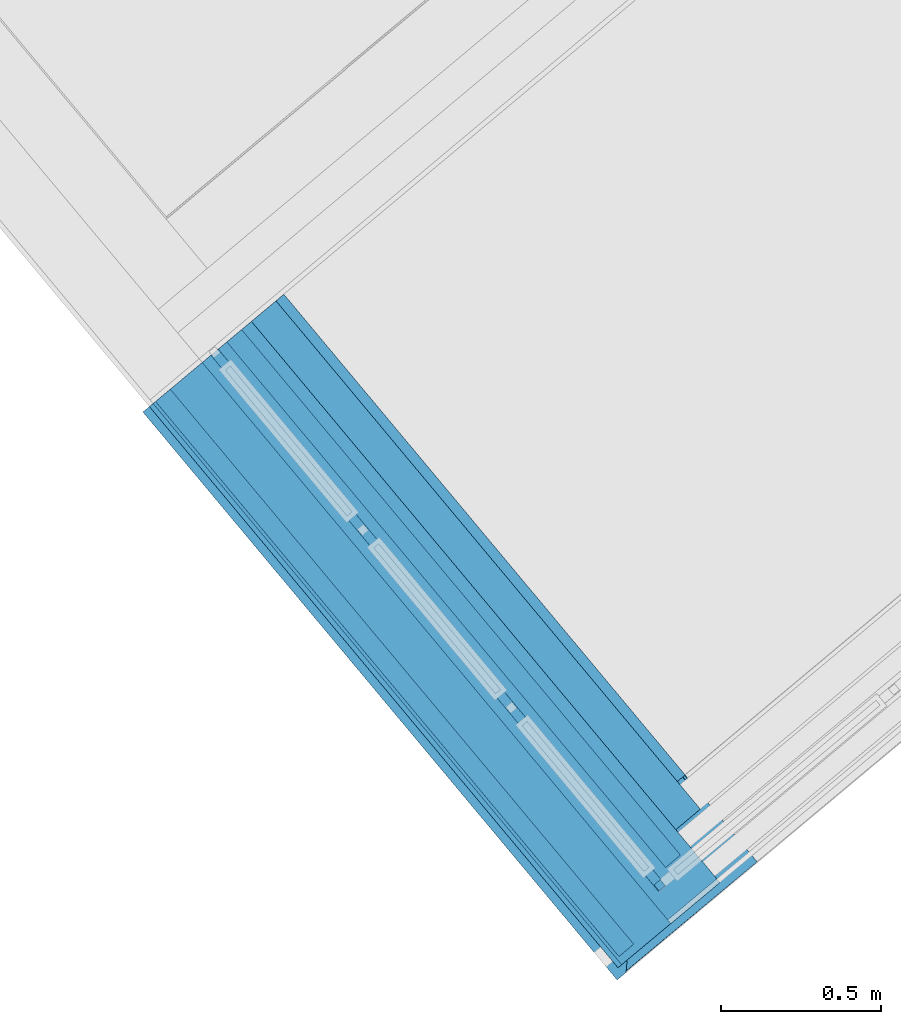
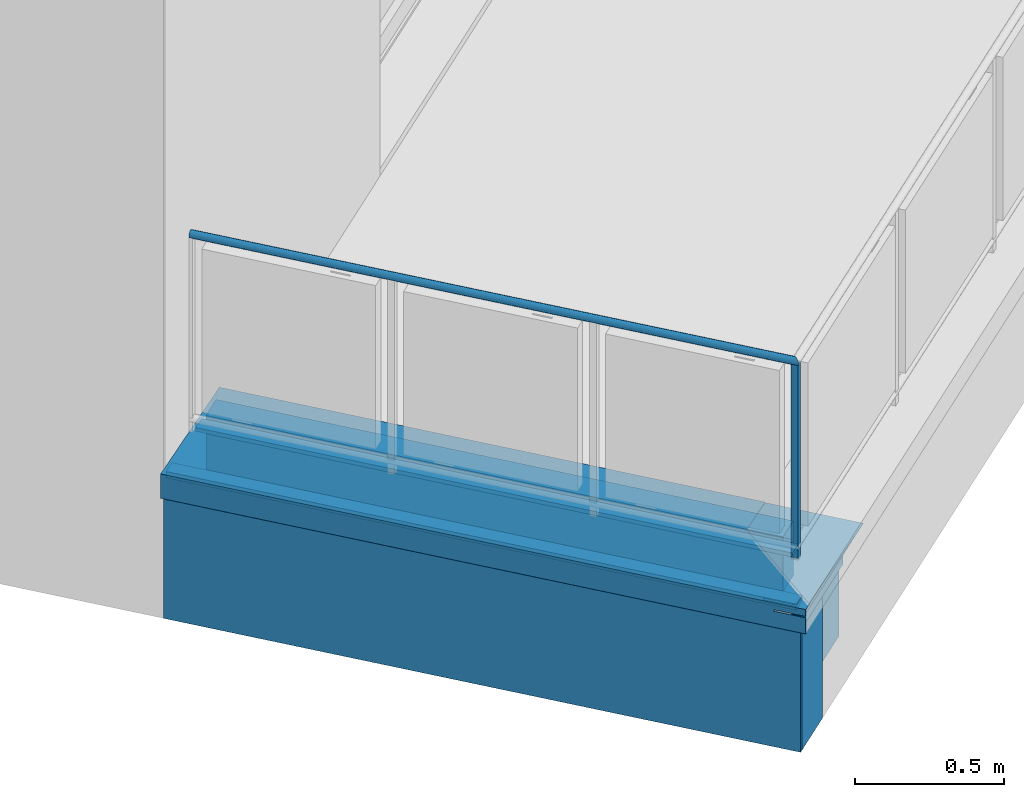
# One storey, part 13 of 50: 11 building element parts, 2 elements without a shape of their own.
"""IFC4 building model written with IfcOpenShell, lengths in metres."""

from ifc_helpers import new_model, entity, si_unit, converted_unit, derived_unit, direction, frame, origin_with_axes, place, context, subcontext, project, spatial, polygons, material, type_object, element, aggregate, save


model = new_model("IFC4")

# Units and contexts
model_context = context("Model", 3, precision=1e-05, world=origin_with_axes(), true_north=direction((0.0, 1.0)))
body_context = subcontext(model_context, "Body", "Model", "MODEL_VIEW")
ifc_project = project(units=[si_unit("LENGTHUNIT", "METRE"), si_unit("AREAUNIT", "SQUARE_METRE"), si_unit("VOLUMEUNIT", "CUBIC_METRE"), converted_unit("PLANEANGLEUNIT", "DEGREE", entity("IfcPlaneAngleMeasure", 0.0174532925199), si_unit("PLANEANGLEUNIT", "RADIAN"), dimensions=[0, 0, 0, 0, 0, 0, 0]), converted_unit("TIMEUNIT", "Year", entity("IfcTimeMeasure", 31556926.0), si_unit("TIMEUNIT", "SECOND"), dimensions=[0, 0, 1, 0, 0, 0, 0]), si_unit("MASSUNIT", "GRAM", prefix="KILO"), si_unit("THERMODYNAMICTEMPERATUREUNIT", "DEGREE_CELSIUS"), si_unit("LUMINOUSINTENSITYUNIT", "LUMEN"), si_unit("ENERGYUNIT", "JOULE", prefix="MEGA"), derived_unit("THERMALCONDUCTANCEUNIT", [(si_unit("POWERUNIT", "WATT"), 1), (si_unit("LENGTHUNIT", "METRE"), -1), (si_unit("THERMODYNAMICTEMPERATUREUNIT", "KELVIN"), -1)]), derived_unit("SPECIFICHEATCAPACITYUNIT", [(si_unit("ENERGYUNIT", "JOULE"), 1), (si_unit("MASSUNIT", "GRAM", prefix="KILO"), -1), (si_unit("THERMODYNAMICTEMPERATUREUNIT", "KELVIN"), -1)]), derived_unit("MASSDENSITYUNIT", [(si_unit("MASSUNIT", "GRAM", prefix="KILO"), 1), (si_unit("VOLUMEUNIT", "CUBIC_METRE"), -1)])], contexts=[model_context])

# Site, building, storey
site_placement = place(None, frame((-0.00153261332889, -0.00661245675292, 0.0), z_axis=(0.0, 0.0, 1.0), x_axis=(1.0, 0.0, 0.0)))
site = spatial("IfcSite", under=ifc_project, at=site_placement, Name="Site", CompositionType="ELEMENT")
building_placement = place(site_placement, origin_with_axes())
building = spatial("IfcBuilding", under=site, at=building_placement, Name="Building", CompositionType="ELEMENT")
storey_placement = place(building_placement, frame((0.0, 0.0, 2.74), z_axis=(0.0, 0.0, 1.0), x_axis=(1.0, 0.0, 0.0)))
storey = spatial("IfcBuildingStorey", under=building, at=storey_placement, Name="OG1", CompositionType="ELEMENT", Elevation=2.74)

# Wall, building element parts
wall_type = type_object("IfcWallType", Name="Balkon Dämmung runter 574 x 610", PredefinedType="NOTDEFINED")
wall_placement = place(storey_placement, frame((-0.869246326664, 8.34153645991, -0.2), z_axis=(0.0, 0.0, 1.0), x_axis=(0.640952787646, -0.7675803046, 0.0)))
wall = element("IfcWall", 1, at=wall_placement, inside=storey, type_object=wall_type, Name="Wand-004", PredefinedType="NOTDEFINED")
ifc_material_1 = material(Name="Stahl")
building_element_part_1_placement = place(wall_placement, origin_with_axes())
building_element_part_1 = element("IfcBuildingElementPart", 2, at=building_element_part_1_placement, material=ifc_material_1, Name="Stahl", PredefinedType="NOTDEFINED", context=body_context, shape_type="Tessellation", body=[
    polygons([(2.31050672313, -0.241452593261, 0.608602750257), (2.3105274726, -0.241471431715, 0.581921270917), (2.31052209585, -0.24015106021, 0.581921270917), (2.31050652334, -0.240152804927, 0.608602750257), (2.31050872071, -0.24148595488, 0.575979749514), (2.30921429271, -0.241485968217, 0.575979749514), (2.25789575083, -0.241486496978, 0.575979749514), (2.19798147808, -0.241487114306, 0.575979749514), (2.19798147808, -0.241487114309, 0.57982217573), (2.19798147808, -0.24148711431, 0.581921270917), (2.25786387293, -0.241486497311, 0.581921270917), (2.30921468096, -0.241485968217, 0.581921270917), (2.31050328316, -0.24148595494, 0.581921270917), (2.30921643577, -0.241500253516, 0.608602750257), (2.30795035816, -0.241500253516, 0.608602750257), (2.30921643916, -0.241500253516, 0.608652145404), (2.31050672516, -0.241452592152, 0.608652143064), (2.31056389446, -0.241500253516, 0.610006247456), (0.0, -0.241500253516, 0.610006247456), (0.0, -0.241500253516, 0.510007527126), (2.31050570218, -0.241500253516, 0.510007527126), (2.31055711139, -0.241500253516, 0.510056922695), (2.31052888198, -0.241472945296, 0.575979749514), (2.30921407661, -0.240151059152, 0.581921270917), (2.30794974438, -0.240152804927, 0.608602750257), (2.30921582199, -0.240152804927, 0.608602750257), (2.25786326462, -0.240151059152, 0.581921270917), (2.19798086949, -0.240151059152, 0.581921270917), (2.19798086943, -0.240150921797, 0.57982217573), (2.19798086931, -0.240150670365, 0.575979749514), (2.25789514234, -0.240150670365, 0.575979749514), (2.30921368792, -0.240150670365, 0.575979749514), (2.31052556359, -0.240150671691, 0.575979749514), (2.31056327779, -0.240146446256, 0.51136132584), (0.0, -0.240146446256, 0.51136132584), (0.0, -0.240152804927, 0.608602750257), (2.30793269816, -0.202730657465, 0.608602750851), (2.3091994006, -0.204095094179, 0.60865214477), (2.31050098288, -0.204095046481, 0.608652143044), (0.0, 0.332051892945, 0.589243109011), (2.30711494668, -0.201849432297, 0.608570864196), (1.95543117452, 0.149654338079, 0.5958462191), (1.95534808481, 0.332051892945, 0.589243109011), (0.0, -0.240542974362, 0.509050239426), (0.0, 0.332051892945, 0.489652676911), (0.0, 0.331094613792, 0.488695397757), (0.0, 0.321878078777, 0.497911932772), (0.0, 0.32288233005, 0.498822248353), (0.0, 0.330698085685, 0.491006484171), (0.0, 0.330698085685, 0.587937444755), (0.0, -0.239276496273, 0.608570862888), (0.0, -0.232283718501, 0.519224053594), (0.0, -0.231373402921, 0.518219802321), (2.28285606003, -0.240542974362, 0.509050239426), (2.28285608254, -0.240592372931, 0.509099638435), (2.30960619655, -0.240592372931, 0.509099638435), (2.30960615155, -0.240493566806, 0.509099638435), (2.31055623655, -0.239536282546, 0.510056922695), (2.31056238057, -0.238182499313, 0.511410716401), (2.31056325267, -0.240097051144, 0.511410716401), (2.31054704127, -0.240083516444, 0.511410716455), (2.30920944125, -0.240097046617, 0.511410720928), (2.30139254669, -0.23228372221, 0.519224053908), (2.30713199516, -0.239276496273, 0.608570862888), (1.955448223, 0.11222723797, 0.5958462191), (1.9553487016, 0.330698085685, 0.587937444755), (1.95534808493, 0.332051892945, 0.587937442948), (1.9553480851, 0.332051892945, 0.586106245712), (1.9553480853, 0.332051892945, 0.584015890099), (1.95534808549, 0.332051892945, 0.581921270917), (1.95534808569, 0.332051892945, 0.579822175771), (1.95534808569, 0.332051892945, 0.575979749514), (1.95534808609, 0.332051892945, 0.575576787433), (1.95534808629, 0.332051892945, 0.573880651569), (1.95534808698, 0.332051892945, 0.567947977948), (1.95534808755, 0.332051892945, 0.560000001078), (1.95534809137, 0.332051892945, 0.519273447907), (1.95534809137, 0.332051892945, 0.519224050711), (1.95534809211, 0.332051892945, 0.511410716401), (1.95534809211, 0.332051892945, 0.51136132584), (1.95534809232, 0.332051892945, 0.509099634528), (1.95534809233, 0.332051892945, 0.509050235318), (1.95534809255, 0.332051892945, 0.506731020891), (1.95534809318, 0.332051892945, 0.499999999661), (1.95534809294, 0.332051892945, 0.498915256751), (1.95726264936, 0.332051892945, 0.498915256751), (1.95716963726, 0.332051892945, 0.498822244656), (1.95495156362, 0.332051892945, 0.496604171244), (1.96759522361, 0.332051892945, 0.496604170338), (1.96759522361, 0.332051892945, 0.491006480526), (1.96759522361, 0.332051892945, 0.489652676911), (1.96759565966, 0.331094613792, 0.488695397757), (1.96759671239, 0.328783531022, 0.491006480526), (1.9675992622, 0.323185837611, 0.496604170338), (1.9675998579, 0.32187807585, 0.497911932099), (1.96759940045, 0.322882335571, 0.498822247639), (1.96759839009, 0.325100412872, 0.496604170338), (1.96759584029, 0.330698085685, 0.491006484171), (1.96759584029, 0.330698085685, 0.496604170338), (1.95495218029, 0.330698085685, 0.496604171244), (1.95717025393, 0.330698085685, 0.498822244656), (1.95726326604, 0.330698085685, 0.498915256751), (1.95534870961, 0.330698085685, 0.498915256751), (1.95534870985, 0.330698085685, 0.499999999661), (1.95534870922, 0.330698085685, 0.506731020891), (1.955348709, 0.330698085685, 0.509050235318), (1.955348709, 0.330698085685, 0.509099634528), (1.95534870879, 0.330698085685, 0.51136132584), (1.95534870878, 0.330698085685, 0.511410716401), (1.95534870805, 0.330698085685, 0.519224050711), (1.95534870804, 0.330698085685, 0.519273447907), (1.95534870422, 0.330698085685, 0.560000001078), (1.95534870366, 0.330698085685, 0.567947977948), (1.95534870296, 0.330698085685, 0.573880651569), (1.95534870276, 0.330698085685, 0.575576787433), (1.95534870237, 0.330698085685, 0.575979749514), (1.95534870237, 0.330698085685, 0.579822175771), (1.95534870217, 0.330698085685, 0.581921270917), (1.95534870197, 0.330698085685, 0.584015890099), (1.95534870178, 0.330698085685, 0.586106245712), (2.30239638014, -0.23137340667, 0.518219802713), (2.30920856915, -0.238182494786, 0.511410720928), (2.28285603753, -0.240493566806, 0.509099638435)], [[[1, 2, 3, 4]], [[5, 6, 7, 8, 9, 10, 11, 12, 13, 2, 1, 14, 15, 16, 17, 18, 19, 20, 21, 22, 23]], [[13, 12, 24, 3, 2]], [[25, 26, 4, 3, 24, 27, 28, 29, 30, 31, 32, 33, 34, 35, 36]], [[14, 1, 4, 26]], [[6, 5, 23, 33, 32]], [[7, 6, 32, 31]], [[8, 7, 31, 30]], [[8, 30, 29, 9]], [[10, 9, 29, 28]], [[11, 10, 28, 27]], [[11, 27, 24, 12]], [[15, 14, 26, 25]], [[15, 25, 37, 38, 16]], [[17, 16, 38, 39]], [[18, 17, 39]], [[40, 19, 18, 39, 38, 37, 41, 42, 43]], [[44, 20, 19, 40, 45, 46, 47, 48, 49, 50, 51, 36, 35, 52, 53]], [[54, 55, 56, 21, 20, 44]], [[22, 21, 56, 57, 58]], [[23, 22, 58, 59, 60, 34, 33]], [[52, 35, 34, 60, 61, 62, 63]], [[64, 25, 36, 51]], [[25, 64, 41, 37]], [[41, 64, 65, 42]], [[42, 65, 66, 67, 43]], [[45, 40, 43, 67, 68, 69, 70, 71, 72, 73, 74, 75, 76, 77, 78, 79, 80, 81, 82, 83, 84, 85, 86, 87, 88, 89, 90, 91]], [[46, 45, 91, 92]], [[47, 46, 92, 93, 94, 95]], [[48, 47, 95, 96]], [[49, 48, 96, 97, 98]], [[50, 49, 98, 99, 100, 101, 102, 103, 104, 105, 106, 107, 108, 109, 110, 111, 112, 113, 114, 115, 116, 117, 118, 119, 120, 66]], [[64, 51, 50, 66, 65]], [[53, 52, 63, 121]], [[54, 44, 53, 121, 122, 59, 58, 57, 123]], [[55, 54, 123]], [[55, 123, 57, 56]], [[61, 60, 59, 122, 62]], [[62, 122, 121, 63]], [[66, 120, 68, 67]], [[120, 119, 69, 68]], [[119, 118, 70, 69]], [[118, 117, 71, 70]], [[117, 116, 72, 71]], [[116, 115, 73, 72]], [[115, 114, 74, 73]], [[114, 113, 75, 74]], [[113, 112, 76, 75]], [[112, 111, 77, 76]], [[111, 110, 78, 77]], [[110, 109, 79, 78]], [[109, 108, 80, 79]], [[108, 107, 81, 80]], [[107, 106, 82, 81]], [[106, 105, 83, 82]], [[105, 104, 84, 83]], [[104, 103, 85, 84]], [[85, 103, 102, 86]], [[102, 101, 87, 86]], [[100, 88, 87, 101]], [[88, 100, 99, 89]], [[98, 90, 89, 99]], [[98, 93, 92, 91, 90]], [[93, 98, 97, 94]], [[95, 94, 97, 96]]], closed=True),
])
ifc_material_2 = material(Name="Holzwerkstoff")
building_element_part_2_placement = place(wall_placement, origin_with_axes())
building_element_part_2 = element("IfcBuildingElementPart", 3, at=building_element_part_2_placement, material=ifc_material_2, Name="Holzwerkstoff", PredefinedType="NOTDEFINED", context=body_context, shape_type="Tessellation", body=[
    polygons([(0.0, -0.189984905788, 0.586106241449), (0.0, -0.239999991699, 0.587852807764), (0.0, -0.239276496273, 0.608570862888), (0.0, 0.330698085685, 0.587937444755), (0.0, 0.329999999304, 0.567947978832), (0.0, 0.160110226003, 0.573880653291), (0.0, 0.0999999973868, 0.575979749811), (0.0, -0.130124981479, 0.584015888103), (2.25781803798, -0.18998504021, 0.586106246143), (2.30785576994, -0.239999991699, 0.587852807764), (2.30785286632, -0.239997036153, 0.587937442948), (2.30757655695, -0.239720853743, 0.595846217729), (2.30713199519, -0.239276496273, 0.608570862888), (2.30741624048, 0.112227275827, 0.595846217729), (2.30759290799, 0.330698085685, 0.587937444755), (2.30759586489, 0.330695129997, 0.587852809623), (2.25758088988, 0.330634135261, 0.586106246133), (2.19772090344, 0.330561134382, 0.584015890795), (2.13773886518, 0.330487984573, 0.581921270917), (2.07762866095, 0.330414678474, 0.579822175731), (1.96759593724, 0.330280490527, 0.575979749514), (1.95605672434, 0.330266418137, 0.575576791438), (2.07765233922, 0.33026641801, 0.575576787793), (2.07766179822, 0.330207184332, 0.573880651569), (2.07769488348, 0.329999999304, 0.567947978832), (2.07773927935, 0.160110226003, 0.573880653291), (2.07775197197, 0.111539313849, 0.575576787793), (1.95615635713, 0.111539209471, 0.575576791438), (1.96770083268, 0.100000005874, 0.575979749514), (2.0777837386, -0.0100327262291, 0.579822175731), (2.13792135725, -0.0701429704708, 0.581921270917), (2.19793075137, -0.130125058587, 0.584015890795)], [[[1, 2, 3, 4, 5, 6, 7, 8]], [[9, 10, 2, 1]], [[10, 11, 12, 13, 3, 2]], [[3, 13, 14, 15, 4]], [[5, 4, 15, 16, 17, 18, 19, 20, 21, 22, 23, 24, 25]], [[6, 5, 25, 26]], [[7, 6, 26, 27, 28, 29]], [[8, 7, 29, 30, 31, 32]], [[9, 1, 8, 32]], [[10, 9, 17, 16]], [[11, 10, 16, 15]], [[12, 11, 15, 14]], [[12, 14, 13]], [[9, 32, 18, 17]], [[32, 31, 19, 18]], [[31, 30, 20, 19]], [[30, 29, 21, 20]], [[29, 28, 22, 21]], [[28, 27, 23, 22]], [[27, 26, 24, 23]], [[26, 25, 24]]], closed=True),
])
ifc_material_3 = material(Name="EPS 1")
building_element_part_3_placement = place(wall_placement, origin_with_axes())
building_element_part_3 = element("IfcBuildingElementPart", 4, at=building_element_part_3_placement, material=ifc_material_3, Name="EPS 1", PredefinedType="NOTDEFINED", context=body_context, shape_type="Tessellation", body=[
    polygons([(2.06765538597, 0.199999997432, 0.335), (0.0, 0.199999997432, 0.335), (0.0, 0.3, 0.335), (2.06760983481, 0.3, 0.335), (2.06765538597, 0.199999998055, 0.488695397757), (2.06765538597, 0.199999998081, 0.491006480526), (2.06765538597, 0.199999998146, 0.496604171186), (2.06765538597, 0.199999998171, 0.498822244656), (2.06765538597, 0.199999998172, 0.498915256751), (2.06765538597, 0.199999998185, 0.500000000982), (2.06765538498, 0.199999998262, 0.506731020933), (2.06765538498, 0.199999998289, 0.509050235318), (2.06765538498, 0.19999999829, 0.509099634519), (2.06765538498, 0.199999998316, 0.51136132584), (2.06765538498, 0.199999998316, 0.511410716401), (2.06765538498, 0.199999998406, 0.519224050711), (2.06765538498, 0.199999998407, 0.519273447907), (2.06765538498, 0.199999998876, 0.560000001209), (0.0, 0.2, 0.560000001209), (0.0, 0.3, 0.560000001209), (2.06760983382, 0.3, 0.560000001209), (2.06760983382, 0.3, 0.519273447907), (2.06760983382, 0.3, 0.519224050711), (2.06760983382, 0.3, 0.511410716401), (2.06760983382, 0.3, 0.51136132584), (2.06760983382, 0.3, 0.509099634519), (2.06760983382, 0.3, 0.509050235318), (2.06760983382, 0.3, 0.506731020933), (2.06760983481, 0.3, 0.500000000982), (2.06760983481, 0.3, 0.498915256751), (2.06760983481, 0.3, 0.498822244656), (2.06760983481, 0.3, 0.496604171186), (2.06760983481, 0.3, 0.491006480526), (2.06760983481, 0.3, 0.488695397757)], [[[1, 2, 3, 4]], [[1, 5, 6, 7, 8, 9, 10, 11, 12, 13, 14, 15, 16, 17, 18, 19, 2]], [[2, 19, 20, 3]], [[3, 20, 21, 22, 23, 24, 25, 26, 27, 28, 29, 30, 31, 32, 33, 34, 4]], [[5, 1, 4, 34]], [[6, 5, 34, 33]], [[7, 6, 33, 32]], [[8, 7, 32, 31]], [[9, 8, 31, 30]], [[10, 9, 30, 29]], [[11, 10, 29, 28]], [[12, 11, 28, 27]], [[13, 12, 27, 26]], [[14, 13, 26, 25]], [[15, 14, 25, 24]], [[16, 15, 24, 23]], [[17, 16, 23, 22]], [[18, 17, 22, 21]], [[19, 18, 21, 20]]], closed=True),
])
ifc_material_4 = material(Name="Vollholz")
building_element_part_4_placement = place(wall_placement, origin_with_axes())
building_element_part_4 = element("IfcBuildingElementPart", 5, at=building_element_part_4_placement, material=ifc_material_4, Name="Vollholz", PredefinedType="NOTDEFINED", context=body_context, shape_type="Tessellation", body=[
    polygons([(0.0, 0.1, 0.560000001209), (2.13784385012, 0.1, 0.560000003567), (2.13784385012, 0.1, 0.567947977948), (2.13784385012, 0.1, 0.573880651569), (2.13784385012, 0.1, 0.575576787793), (2.13784385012, 0.1, 0.575979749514), (0.0, 0.1, 0.575979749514), (0.0, 0.16, 0.560000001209), (2.13781651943, 0.160000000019, 0.560000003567), (2.13781649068, 0.160063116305, 0.567947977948), (2.13781646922, 0.160110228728, 0.573880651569), (2.13783859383, 0.11153931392, 0.575576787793), (0.0, 0.160110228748, 0.573880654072)], [[[1, 2, 3, 4, 5, 6, 7]], [[2, 1, 8, 9]], [[3, 2, 9, 10]], [[4, 3, 10, 11]], [[5, 4, 11, 12]], [[6, 5, 12]], [[7, 6, 12, 11, 13]], [[7, 13, 8, 1]], [[8, 13, 11, 10, 9]]], closed=True),
])
ifc_material_5 = material(Name="Stahlbeton")
building_element_part_5_placement = place(wall_placement, origin_with_axes())
building_element_part_5 = element("IfcBuildingElementPart", 6, at=building_element_part_5_placement, material=ifc_material_5, Name="Stahlbeton", PredefinedType="NOTDEFINED", context=body_context, shape_type="Tessellation", body=[
    polygons([(2.26774647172, -2.73519251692e-09, 0.500000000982), (2.26765536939, 0.199999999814, 0.500000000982), (0.0, 0.199999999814, 0.500000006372), (0.0, -2.73518896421e-09, 0.499999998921), (2.26765536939, 0.199999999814, 0.498915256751), (2.26774647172, -2.73518718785e-09, 0.498915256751), (2.26765536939, 0.199999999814, 0.498822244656), (2.26765536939, 0.199999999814, 0.496604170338), (2.26765536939, 0.199999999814, 0.491006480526), (2.26765536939, 0.199999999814, 0.488695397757), (2.26765536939, 0.199999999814, 0.334999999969), (0.0, 0.199999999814, 0.334999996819), (0.0, 0.199999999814, 0.200000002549), (0.0, -2.73518896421e-09, 0.200000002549), (2.26774647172, -2.73519074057e-09, 0.2), (2.26774647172, -2.73518896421e-09, 0.334999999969), (2.26774647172, -2.73518896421e-09, 0.488695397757), (2.26774647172, -2.73518896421e-09, 0.491006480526), (2.26774647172, -2.73518718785e-09, 0.496604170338), (2.26774647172, -2.73518896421e-09, 0.498822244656), (2.26765536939, 0.199999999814, 0.2)], [[[1, 2, 3, 4]], [[5, 2, 1, 6]], [[2, 5, 7, 8, 9, 10, 11, 12, 3]], [[4, 3, 12, 13, 14]], [[6, 1, 4, 14, 15, 16, 17, 18, 19, 20]], [[5, 6, 20, 7]], [[7, 20, 19, 8]], [[8, 19, 18, 9]], [[9, 18, 17, 10]], [[10, 17, 16, 11]], [[11, 21, 13, 12]], [[21, 15, 14, 13]], [[11, 16, 15, 21]]], closed=True),
])
ifc_material_6 = material(Name="Brettschichtholz")
building_element_part_6_placement = place(wall_placement, origin_with_axes())
building_element_part_6 = element("IfcBuildingElementPart", 7, at=building_element_part_6_placement, material=ifc_material_6, Name="Brettschichtholz", PredefinedType="NOTDEFINED", context=body_context, shape_type="Tessellation", body=[
    polygons([(0.0, -0.214999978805, 0.500000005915), (2.2828444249, -0.214999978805, 0.500000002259), (2.2828444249, -0.214999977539, 0.509099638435), (2.2828444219, -0.214999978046, 0.51136132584), (2.2828444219, -0.214999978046, 0.511410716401), (2.2828444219, -0.214999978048, 0.519224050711), (2.2828444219, -0.214999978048, 0.519273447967), (2.28284442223, -0.214999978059, 0.560000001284), (0.0, -0.214999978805, 0.560000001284), (0.0, 0.199999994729, 0.500000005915), (2.28265538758, 0.199999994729, 0.500000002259), (2.28265538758, 0.199999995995, 0.509099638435), (2.28265538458, 0.199999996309, 0.51136132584), (2.28265538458, 0.199999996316, 0.511410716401), (2.28265538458, 0.199999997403, 0.519224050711), (2.28265538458, 0.19999999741, 0.519273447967), (2.28265538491, 0.200000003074, 0.560000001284), (2.28267360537, 0.160000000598, 0.560000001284), (2.28270093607, 0.100000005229, 0.560000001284), (2.28280576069, -0.130124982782, 0.560000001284), (2.28283309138, -0.190124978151, 0.560000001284), (0.0, -0.190124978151, 0.560000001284), (0.0, -0.130124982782, 0.560000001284), (0.0, 0.100000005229, 0.560000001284), (0.0, 0.160000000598, 0.560000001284), (0.0, 0.200000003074, 0.560000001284)], [[[1, 2, 3, 4, 5, 6, 7, 8, 9]], [[2, 1, 10, 11]], [[3, 2, 11, 12]], [[3, 12, 13, 4]], [[5, 4, 13, 14]], [[6, 5, 14, 15]], [[7, 6, 15, 16]], [[8, 7, 16, 17, 18, 19, 20, 21]], [[9, 8, 21, 22]], [[1, 9, 22, 23, 24, 25, 26, 10]], [[10, 26, 17, 16, 15, 14, 13, 12, 11]], [[26, 25, 18, 17]], [[25, 24, 19, 18]], [[24, 23, 20, 19]], [[23, 22, 21, 20]]], closed=True),
])
building_element_part_7_placement = place(wall_placement, origin_with_axes())
building_element_part_7 = element("IfcBuildingElementPart", 8, at=building_element_part_7_placement, material=ifc_material_3, Name="EPS 1", PredefinedType="NOTDEFINED", context=body_context, shape_type="Tessellation", body=[
    polygons([(2.28283759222, -0.19999996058, 0.500000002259), (2.28274648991, -2.90217805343e-09, 0.500000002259), (0.0, -2.90217716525e-09, 0.500000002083), (0.0, -0.19999996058, 0.499999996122), (2.28274648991, -2.73519074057e-09, 0.200000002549), (2.28283759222, -0.19999996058, 0.0), (2.28274648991, -2.90217894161e-09, 0.0), (0.0, -2.73518896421e-09, 0.200000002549), (0.0, -0.19999996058, 0.0), (0.0, -2.90217716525e-09, 0.0)], [[[1, 2, 3, 4]], [[5, 2, 1, 6, 7]], [[2, 5, 8, 3]], [[9, 4, 3, 8, 10]], [[6, 1, 4, 9]], [[7, 6, 9, 10]], [[5, 7, 10, 8]]], closed=True),
])
building_element_part_8_placement = place(wall_placement, origin_with_axes())
building_element_part_8 = element("IfcBuildingElementPart", 9, at=building_element_part_8_placement, material=ifc_material_4, Name="Vollholz", PredefinedType="NOTDEFINED", context=body_context, shape_type="Tessellation", body=[
    polygons([(2.25781803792, -0.189984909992, 0.586106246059), (2.25780190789, -0.130124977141, 0.584015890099), (0.0, -0.130124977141, 0.584015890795), (0.0, -0.189984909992, 0.586106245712), (2.2578291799, -0.189996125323, 0.584015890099), (2.25781314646, -0.130124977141, 0.581921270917), (2.19793074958, -0.130124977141, 0.581921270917), (2.13794867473, -0.130124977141, 0.581921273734), (2.13794867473, -0.130124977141, 0.57982217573), (2.13794867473, -0.130124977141, 0.575979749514), (2.19793074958, -0.130124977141, 0.575979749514), (2.25784502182, -0.130124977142, 0.575979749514), (2.25784718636, -0.130124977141, 0.575576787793), (2.25785628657, -0.130124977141, 0.573880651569), (2.25788811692, -0.130124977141, 0.567947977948), (2.25793075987, -0.130124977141, 0.560000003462), (0.0, -0.130124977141, 0.560000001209), (0.0, -0.190124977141, 0.560000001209), (2.25795809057, -0.190124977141, 0.560000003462), (2.25791542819, -0.19008233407, 0.567947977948), (2.25788358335, -0.190050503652, 0.573880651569), (2.25787447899, -0.190041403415, 0.575576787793), (2.25787231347, -0.190039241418, 0.575979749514), (2.19795804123, -0.190039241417, 0.575979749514), (2.13797596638, -0.190039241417, 0.575979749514), (2.13797595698, -0.190018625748, 0.57982217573), (2.13797595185, -0.190007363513, 0.581921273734), (2.19795802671, -0.190007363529, 0.581921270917), (2.25784042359, -0.190007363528, 0.581921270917)], [[[1, 2, 3, 4]], [[5, 2, 1]], [[2, 6, 7, 8, 9, 10, 11, 12, 13, 14, 15, 16, 17, 3]], [[17, 18, 4, 3]], [[5, 1, 4, 18, 19, 20, 21, 22, 23, 24, 25, 26, 27, 28, 29]], [[2, 5, 29, 6]], [[6, 29, 28, 7]], [[8, 7, 28, 27]], [[9, 8, 27, 26]], [[9, 26, 25, 10]], [[24, 11, 10, 25]], [[11, 24, 23, 12]], [[12, 23, 22, 13]], [[13, 22, 21, 14]], [[14, 21, 20, 15]], [[15, 20, 19, 16]], [[16, 19, 18, 17]]], closed=True),
])
ifc_material_7 = material(Name="Zementputz")
building_element_part_9_placement = place(wall_placement, origin_with_axes())
building_element_part_9 = element("IfcBuildingElementPart", 10, at=building_element_part_9_placement, material=ifc_material_7, Name="Zementputz", PredefinedType="NOTDEFINED", context=body_context, shape_type="Tessellation", body=[
    polygons([(2.2828444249, -0.214999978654, 0.500000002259), (2.28283759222, -0.19999996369, 0.500000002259), (0.0, -0.19999996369, 0.499999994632), (0.0, -0.214999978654, 0.500000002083), (2.28283759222, -0.19999996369, 0.0), (2.2828444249, -0.214999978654, 0.0), (0.0, -0.19999996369, 0.0), (0.0, -0.214999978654, 0.0)], [[[1, 2, 3, 4]], [[5, 2, 1, 6]], [[2, 5, 7, 3]], [[4, 3, 7, 8]], [[6, 1, 4, 8]], [[5, 6, 8, 7]]], closed=True),
])
aggregate(wall, [building_element_part_1, building_element_part_2, building_element_part_3, building_element_part_4, building_element_part_5, building_element_part_6, building_element_part_7, building_element_part_8, building_element_part_9])

# Railing, building element parts
railing_type = type_object("IfcRailingType", Name="Geländerart", PredefinedType="NOTDEFINED")
railing_placement = place(storey_placement, frame((-0.869246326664, 8.34153645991, 0.38), z_axis=(0.0, 0.0, 1.0), x_axis=(1.0, 0.0, 0.0)))
railing = element("IfcRailing", 11, at=railing_placement, inside=storey, type_object=railing_type, Name="Geländer - 001", PredefinedType="NOTDEFINED")
ifc_material_8 = material(Name="Aluminium")
building_element_part_10_placement = place(railing_placement, origin_with_axes())
building_element_part_10 = element("IfcBuildingElementPart", 12, at=building_element_part_10_placement, material=ifc_material_8, Name="Aluminium", PredefinedType="NOTDEFINED", context=body_context, shape_type="Tessellation", body=[
    polygons([(1.42697937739, -1.65038869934, -0.3), (1.44616888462, -1.63436487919, -0.3), (1.44616888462, -1.63436487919, 0.82), (1.42697937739, -1.65038869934, 0.82), (1.41095555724, -1.63119919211, -0.3), (1.43014506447, -1.61517537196, -0.3), (1.43014506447, -1.61517537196, 0.82), (1.41095555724, -1.63119919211, 0.82)], [[[1, 2, 3, 4]], [[1, 5, 6, 2]], [[2, 6, 7, 3]], [[4, 3, 7, 8]], [[5, 1, 4, 8]], [[6, 5, 8, 7]]], closed=True),
])
building_element_part_11_placement = place(railing_placement, origin_with_axes())
building_element_part_11 = element("IfcBuildingElementPart", 13, at=building_element_part_11_placement, material=ifc_material_8, Name="Aluminium", PredefinedType="NOTDEFINED", context=body_context, shape_type="Tessellation", body=[
    polygons([(0.049861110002, 0.0416997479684, 0.825), (0.0496861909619, 0.0415536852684, 0.827604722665), (1.43042846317, -1.61196985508, 0.827604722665), (1.43045725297, -1.61164879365, 0.825), (0.0496861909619, 0.0415536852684, 0.822395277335), (0.0491667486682, 0.0411199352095, 0.81986969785), (0.0483185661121, 0.0404116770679, 0.8175), (0.0471674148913, 0.0394504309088, 0.815358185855), (0.0457482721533, 0.0382654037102, 0.813509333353), (0.0441042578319, 0.0368926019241, 0.812009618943), (0.0422853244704, 0.0353737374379, 0.810904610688), (0.0403467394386, 0.0337549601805, 0.810227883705), (0.0383474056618, 0.0320854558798, 0.81), (0.0363480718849, 0.030415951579, 0.810227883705), (0.0344094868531, 0.0287971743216, 0.810904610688), (0.0325905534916, 0.0272783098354, 0.812009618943), (0.0309465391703, 0.0259055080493, 0.813509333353), (0.0295273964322, 0.0247204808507, 0.815358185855), (0.0283762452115, 0.0237592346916, 0.8175), (0.0275280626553, 0.02305097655, 0.81986969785), (0.0270086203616, 0.0226172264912, 0.822395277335), (0.0268337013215, 0.0224711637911, 0.825), (0.0270086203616, 0.0226172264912, 0.827604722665), (0.0275280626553, 0.02305097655, 0.83013030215), (0.0283762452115, 0.0237592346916, 0.8325), (0.0295273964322, 0.0247204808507, 0.834641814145), (0.0309465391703, 0.0259055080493, 0.836490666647), (0.0325905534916, 0.0272783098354, 0.837990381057), (0.0344094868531, 0.0287971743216, 0.839095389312), (0.0363480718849, 0.030415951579, 0.839772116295), (0.0383474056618, 0.0320854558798, 0.84), (0.0403467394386, 0.0337549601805, 0.839772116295), (0.0422853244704, 0.0353737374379, 0.839095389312), (0.0441042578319, 0.0368926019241, 0.837990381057), (0.0457482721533, 0.0382654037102, 0.836490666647), (0.0471674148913, 0.0394504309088, 0.834641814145), (0.0483185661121, 0.0404116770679, 0.8325), (0.0491667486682, 0.0411199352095, 0.83013030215), (1.43034296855, -1.61292328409, 0.83013030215), (1.43020336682, -1.61448011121, 0.8325), (1.43001389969, -1.61659303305, 0.834641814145), (1.42978032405, -1.61919784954, 0.836490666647), (1.42950973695, -1.62221541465, 0.837990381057), (1.42921036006, -1.62555404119, 0.839095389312), (1.42889128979, -1.62911228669, 0.839772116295), (1.42856222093, -1.63278203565, 0.84), (1.42823315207, -1.63645178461, 0.839772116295), (1.4279140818, -1.64001003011, 0.839095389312), (1.42761470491, -1.64334865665, 0.837990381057), (1.42734411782, -1.64636622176, 0.836490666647), (1.42711054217, -1.64897103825, 0.834641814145), (1.42692107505, -1.65108396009, 0.8325), (1.42678147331, -1.65264078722, 0.83013030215), (1.42669597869, -1.65359421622, 0.827604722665), (1.42666718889, -1.65391527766, 0.825), (1.42669597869, -1.65359421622, 0.822395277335), (1.42678147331, -1.65264078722, 0.81986969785), (1.42692107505, -1.65108396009, 0.8175), (1.42711054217, -1.64897103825, 0.815358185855), (1.42734411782, -1.64636622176, 0.813509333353), (1.42761470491, -1.64334865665, 0.812009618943), (1.4279140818, -1.64001003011, 0.810904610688), (1.42823315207, -1.63645178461, 0.810227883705), (1.42856222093, -1.63278203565, 0.81), (1.42889128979, -1.62911228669, 0.810227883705), (1.42921036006, -1.62555404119, 0.810904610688), (1.42950973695, -1.62221541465, 0.812009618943), (1.42978032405, -1.61919784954, 0.813509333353), (1.43001389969, -1.61659303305, 0.815358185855), (1.43020336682, -1.61448011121, 0.8175), (1.43034296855, -1.61292328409, 0.81986969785), (1.43042846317, -1.61196985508, 0.822395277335)], [[[1, 2, 3, 4]], [[1, 5, 6, 7, 8, 9, 10, 11, 12, 13, 14, 15, 16, 17, 18, 19, 20, 21, 22, 23, 24, 25, 26, 27, 28, 29, 30, 31, 32, 33, 34, 35, 36, 37, 38, 2]], [[2, 38, 39, 3]], [[4, 3, 39, 40, 41, 42, 43, 44, 45, 46, 47, 48, 49, 50, 51, 52, 53, 54, 55, 56, 57, 58, 59, 60, 61, 62, 63, 64, 65, 66, 67, 68, 69, 70, 71, 72]], [[5, 1, 4, 72]], [[6, 5, 72, 71]], [[7, 6, 71, 70]], [[8, 7, 70, 69]], [[9, 8, 69, 68]], [[10, 9, 68, 67]], [[11, 10, 67, 66]], [[12, 11, 66, 65]], [[13, 12, 65, 64]], [[14, 13, 64, 63]], [[15, 14, 63, 62]], [[16, 15, 62, 61]], [[17, 16, 61, 60]], [[18, 17, 60, 59]], [[19, 18, 59, 58]], [[20, 19, 58, 57]], [[21, 20, 57, 56]], [[22, 21, 56, 55]], [[23, 22, 55, 54]], [[24, 23, 54, 53]], [[25, 24, 53, 52]], [[26, 25, 52, 51]], [[27, 26, 51, 50]], [[28, 27, 50, 49]], [[29, 28, 49, 48]], [[30, 29, 48, 47]], [[31, 30, 47, 46]], [[32, 31, 46, 45]], [[33, 32, 45, 44]], [[34, 33, 44, 43]], [[35, 34, 43, 42]], [[36, 35, 42, 41]], [[37, 36, 41, 40]], [[38, 37, 40, 39]]], closed=True),
])
aggregate(railing, [building_element_part_10, building_element_part_11])

save(model, "model.ifc")
